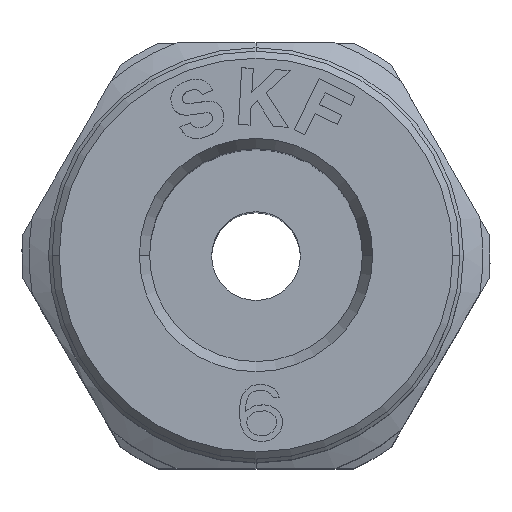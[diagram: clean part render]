
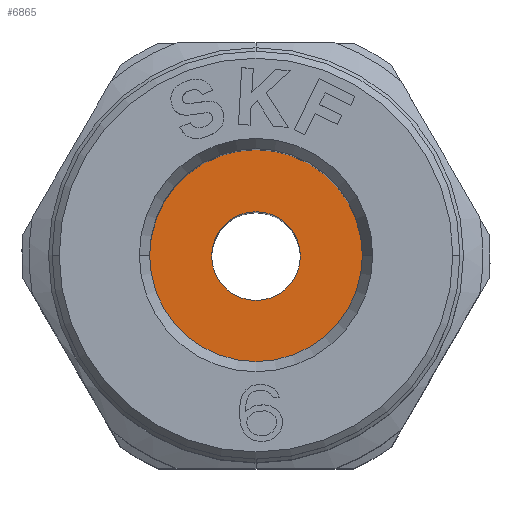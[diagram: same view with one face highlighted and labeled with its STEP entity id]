
A CAD part, top view. The second image highlights one B-rep face of the part: STEP entity #6865.
In plain terms, the highlighted planar face has unit normal (0, 0, 1).
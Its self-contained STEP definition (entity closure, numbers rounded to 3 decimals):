
#61 = CIRCLE ( 'NONE', #5308, 3. ) ;
#340 = CARTESIAN_POINT ( 'NONE',  ( 0., 0., -16. ) ) ;
#402 = CIRCLE ( 'NONE', #4276, 3. ) ;
#754 = DIRECTION ( 'NONE',  ( 0., -1., 0. ) ) ;
#1062 = AXIS2_PLACEMENT_3D ( 'NONE', #3452, #3308, #6686 ) ;
#1208 = ORIENTED_EDGE ( 'NONE', *, *, #3883, .T. ) ;
#1218 = FACE_OUTER_BOUND ( 'NONE', #4136, .T. ) ;
#1287 = DIRECTION ( 'NONE',  ( 0., 0., 1. ) ) ;
#1288 = ORIENTED_EDGE ( 'NONE', *, *, #6660, .T. ) ;
#1318 = VERTEX_POINT ( 'NONE', #5291 ) ;
#1603 = DIRECTION ( 'NONE',  ( 0., -1., 0. ) ) ;
#1974 = CARTESIAN_POINT ( 'NONE',  ( 0., -1.25, -16. ) ) ;
#1980 = DIRECTION ( 'NONE',  ( 0., 0., 1. ) ) ;
#2130 = VERTEX_POINT ( 'NONE', #4260 ) ;
#2173 = DIRECTION ( 'NONE',  ( 0., -1., 0. ) ) ;
#2177 = DIRECTION ( 'NONE',  ( 0., 0., -1. ) ) ;
#2503 = ORIENTED_EDGE ( 'NONE', *, *, #5332, .T. ) ;
#2713 = CARTESIAN_POINT ( 'NONE',  ( 0., 0., -16. ) ) ;
#2963 = PLANE ( 'NONE',  #5471 ) ;
#3053 = AXIS2_PLACEMENT_3D ( 'NONE', #2713, #2177, #1603 ) ;
#3221 = CIRCLE ( 'NONE', #1062, 1.25 ) ;
#3308 = DIRECTION ( 'NONE',  ( 0., 0., -1. ) ) ;
#3452 = CARTESIAN_POINT ( 'NONE',  ( 0., 0., -16. ) ) ;
#3630 = CIRCLE ( 'NONE', #3053, 1.25 ) ;
#3798 = VERTEX_POINT ( 'NONE', #6425 ) ;
#3803 = EDGE_LOOP ( 'NONE', ( #1288, #1208 ) ) ;
#3883 = EDGE_CURVE ( 'NONE', #2130, #5117, #3221, .T. ) ;
#4136 = EDGE_LOOP ( 'NONE', ( #4463, #2503 ) ) ;
#4260 = CARTESIAN_POINT ( 'NONE',  ( 0., 1.25, -16. ) ) ;
#4276 = AXIS2_PLACEMENT_3D ( 'NONE', #6539, #6578, #6375 ) ;
#4463 = ORIENTED_EDGE ( 'NONE', *, *, #5372, .T. ) ;
#5117 = VERTEX_POINT ( 'NONE', #1974 ) ;
#5291 = CARTESIAN_POINT ( 'NONE',  ( 0., 3., -16. ) ) ;
#5308 = AXIS2_PLACEMENT_3D ( 'NONE', #340, #1980, #2173 ) ;
#5332 = EDGE_CURVE ( 'NONE', #1318, #3798, #61, .T. ) ;
#5372 = EDGE_CURVE ( 'NONE', #3798, #1318, #402, .T. ) ;
#5471 = AXIS2_PLACEMENT_3D ( 'NONE', #6228, #1287, #754 ) ;
#6121 = FACE_BOUND ( 'NONE', #3803, .T. ) ;
#6228 = CARTESIAN_POINT ( 'NONE',  ( 0., 0., -16. ) ) ;
#6375 = DIRECTION ( 'NONE',  ( 0., -1., 0. ) ) ;
#6425 = CARTESIAN_POINT ( 'NONE',  ( 0., -3., -16. ) ) ;
#6539 = CARTESIAN_POINT ( 'NONE',  ( 0., 0., -16. ) ) ;
#6578 = DIRECTION ( 'NONE',  ( 0., 0., 1. ) ) ;
#6660 = EDGE_CURVE ( 'NONE', #5117, #2130, #3630, .T. ) ;
#6686 = DIRECTION ( 'NONE',  ( 0., -1., 0. ) ) ;
#6865 = ADVANCED_FACE ( 'NONE', ( #6121, #1218 ), #2963, .T. ) ;
